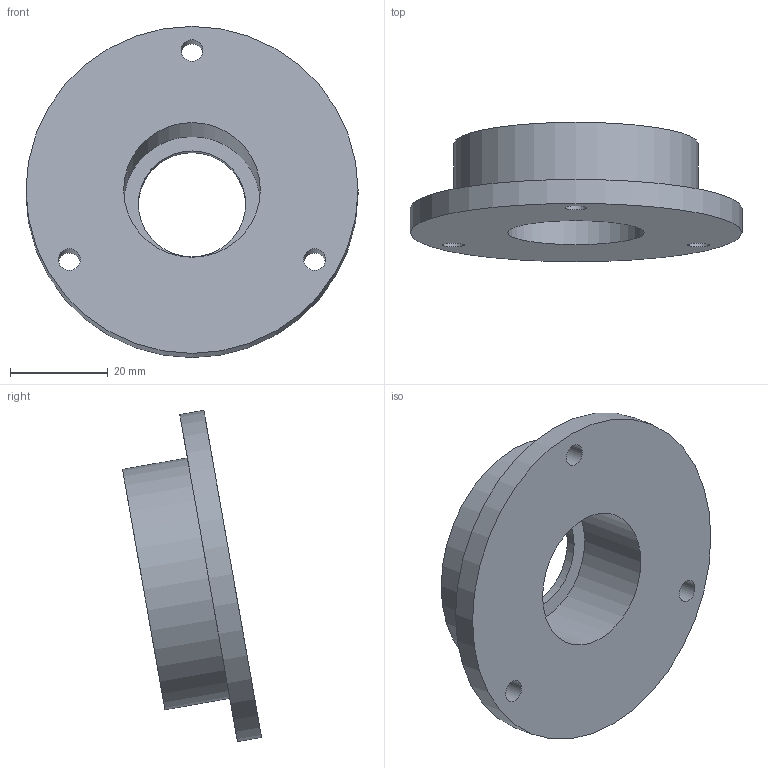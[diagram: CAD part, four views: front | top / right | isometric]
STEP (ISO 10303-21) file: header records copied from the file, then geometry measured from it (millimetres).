
FILE_DESCRIPTION(('golf model'),'2;1');
FILE_NAME('golf','',(''),(''),'golf_step_io','golf','');
FILE_SCHEMA(('AUTOMOTIVE_DESIGN { 1 0 10303 214 1 1 1 1 }'));
Length unit declared in the file: millimetre
Products named in the file (2): ASSEMBLY; gantry_drives.x_bearing_top
Assembly tree (1 placements, depth 2):
  ASSEMBLY
    gantry_drives.x_bearing_top
Bounding box: 68 x 28.46 x 67.84 mm (x, y, z)
Volume: 33506.9 mm3; surface area: 11398.1 mm2
Topology: 1 solids, 1 shells, 11 faces, 21 edges, 14 vertices
Faces by surface type: cylinder 7, plane 4
Full cylindrical faces by diameter (mm): 4.5 x3, 22 x1, 28 x1, 50 x1, 68 x1
Entity records: 304 total; most frequent: DIRECTION 54, CARTESIAN_POINT 41, ORIENTED_EDGE 28, EDGE_LOOP 28, AXIS2_PLACEMENT_3D 27, FACE_BOUND 24, VERTEX_POINT 14, CIRCLE 14
